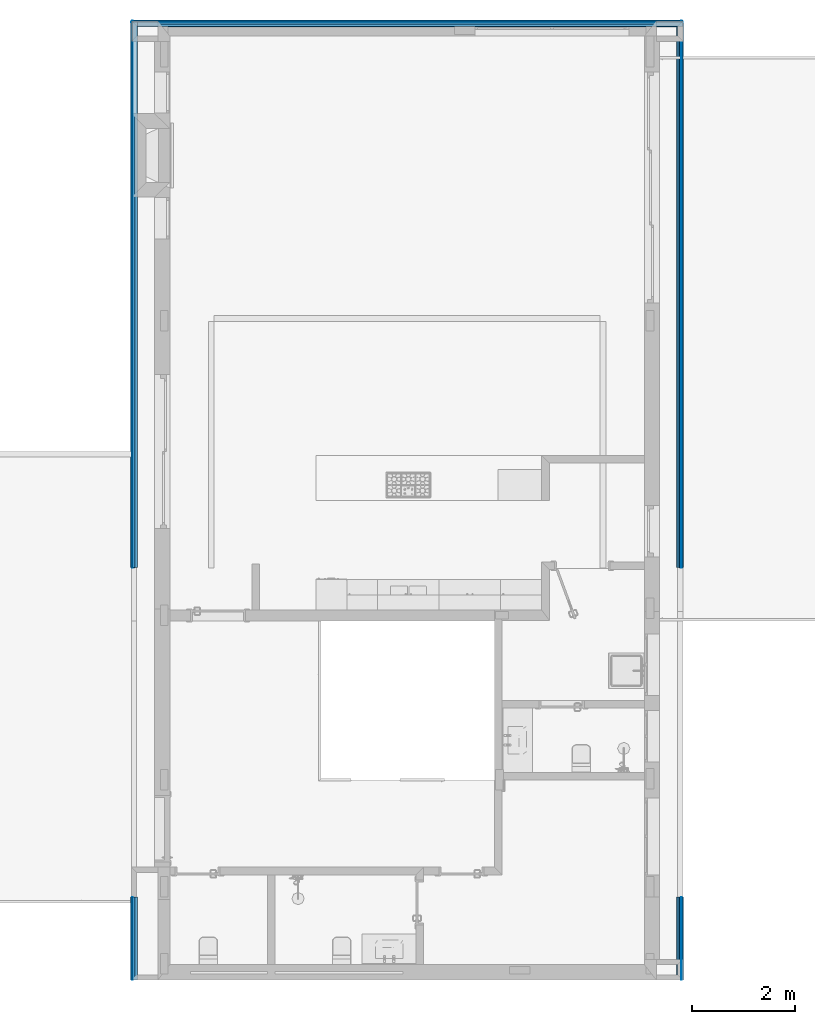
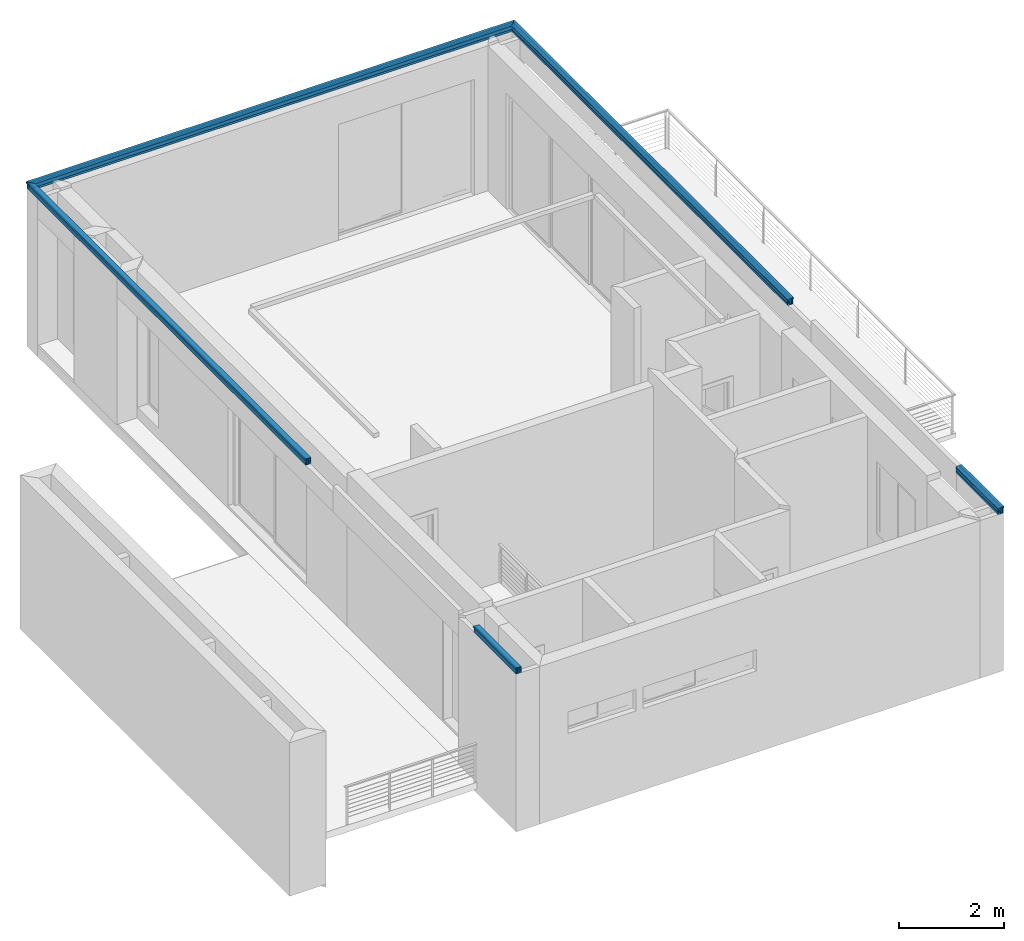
# One storey, part 9 of 26: 30 building element parts, 5 elements without a shape of their own.
"""IFC2X3 building model written with IfcOpenShell, lengths in millimetres."""

from ifc_helpers import new_model, entity, si_unit, converted_unit, money_unit, direction, frame, origin_with_axes, place, context, subcontext, project, spatial, polyline, outline, extrude, material, type_object, element, aggregate, save


model = new_model("IFC2X3")

# Units and contexts
model_context = context("Model", 3, precision=1e-05, world=origin_with_axes(), true_north=direction((0.0, 1.0)))
body_context = subcontext(model_context, "Body", "Model", "MODEL_VIEW")
ifc_project = project(units=[si_unit("LENGTHUNIT", "METRE", prefix="MILLI"), si_unit("AREAUNIT", "SQUARE_METRE"), si_unit("VOLUMEUNIT", "CUBIC_METRE"), converted_unit("PLANEANGLEUNIT", "DEGREE", entity("IfcPlaneAngleMeasure", 0.0174532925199), si_unit("PLANEANGLEUNIT", "RADIAN"), dimensions=[0, 0, 0, 0, 0, 0, 0]), si_unit("SOLIDANGLEUNIT", "STERADIAN"), money_unit("USD"), converted_unit("TIMEUNIT", "Year", entity("IfcTimeMeasure", 31556926.0), si_unit("TIMEUNIT", "SECOND"), dimensions=[0, 0, 0, 0, 0, 0, 0]), si_unit("MASSUNIT", "GRAM"), si_unit("THERMODYNAMICTEMPERATUREUNIT", "DEGREE_CELSIUS"), si_unit("LUMINOUSINTENSITYUNIT", "LUMEN")], contexts=[model_context])

# Site, building, storey
site_placement = place(None, origin_with_axes())
site = spatial("IfcSite", under=ifc_project, at=site_placement, Name="Grove Residential", CompositionType="ELEMENT")
building_placement = place(site_placement, origin_with_axes())
building = spatial("IfcBuilding", under=site, at=building_placement, Name="Building", CompositionType="ELEMENT")
storey_placement = place(building_placement, origin_with_axes())
storey = spatial("IfcBuildingStorey", under=building, at=storey_placement, Name="Ground Floor", CompositionType="ELEMENT", Elevation=0.0)

# Wall, building element parts
wall_type = type_object("IfcWallType", Name="Detail 01 135 x 150", PredefinedType="NOTDEFINED")
wall_1_placement = place(storey_placement, frame((10750.0, -150.0, 3380.0), z_axis=(0.0, 0.0, 1.0), x_axis=(0.0, 1.0, 0.0)))
wall_1 = element("IfcWall", 1, at=wall_1_placement, inside=storey, type_object=wall_type, Name="SW - 004")
ifc_material_1 = material(Name="Titanium Zinc")
building_element_part_1_placement = place(wall_1_placement, origin_with_axes())
building_element_part_1 = element("IfcBuildingElementPart", 2, at=building_element_part_1_placement, material=ifc_material_1, Name="Titanium Zinc", context=body_context, shape_type="SweptSolid", body=[
    extrude(outline(polyline([(-14.9136671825, 150.0), (-14.9136671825, 114.501184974), (-9.91366718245, 114.501184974), (-1.52515777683, 122.889694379), (-5.06069260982, 126.425226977), (-9.91366718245, 121.57225464), (-9.91366718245, 144.501184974), (115.0, 132.604645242), (115.086332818, 128.511777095), (120.086332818, 128.511777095), (120.086332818, 137.142857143), (-14.9136671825, 150.0)])), frame((0.0, 0.0, 0.0), z_axis=(1.0, 0.0, 0.0), x_axis=(0.0, 1.0, 0.0)), (0.0, 0.0, 1.0), 1614.99992309),
])
ifc_material_2 = material(Name="Membrane - Rainproof")
building_element_part_2_placement = place(wall_1_placement, origin_with_axes())
building_element_part_2 = element("IfcBuildingElementPart", 3, at=building_element_part_2_placement, material=ifc_material_2, Name="Membrane - Rainproof", context=body_context, shape_type="SweptSolid", body=[
    extrude(outline(polyline([(-9.91366740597, 144.501185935), (-9.91366740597, 128.511776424), (-1.96900024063e-07, 128.511776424), (-1.96900024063e-07, 133.511776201), (104.999999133, 123.511776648), (104.999999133, 50.0), (115.000000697, 50.0), (115.000000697, 132.604644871), (-9.91366740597, 144.501185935)])), frame((0.0, 0.0, 0.0), z_axis=(1.0, 0.0, 0.0), x_axis=(0.0, 1.0, 0.0)), (0.0, 0.0, 1.0), 1614.99992309),
])
ifc_material_3 = material(Name="Insulation - Plastic Soft")
building_element_part_3_placement = place(wall_1_placement, origin_with_axes())
building_element_part_3 = element("IfcBuildingElementPart", 4, at=building_element_part_3_placement, material=ifc_material_3, Name="Insulation - Plastic Soft", context=body_context, shape_type="SweptSolid", body=[
    extrude(outline(polyline([(65.0, 0.0), (115.0, 0.0), (115.0, 50.0), (65.0, 50.0), (65.0, 0.0)])), frame((0.0, 0.0, 0.0), z_axis=(1.0, 0.0, 0.0), x_axis=(0.0, 1.0, 0.0)), (0.0, 0.0, 1.0), 1614.99992309),
])
ifc_material_4 = material(Name="Air Space")
building_element_part_4_placement = place(wall_1_placement, origin_with_axes())
building_element_part_4 = element("IfcBuildingElementPart", 5, at=building_element_part_4_placement, material=ifc_material_4, Name="Air Space", context=body_context, shape_type="SweptSolid", body=[
    extrude(outline(polyline([(30.0, 0.0), (65.0, 0.0), (65.0, 127.321300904), (30.0, 130.654634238), (30.0, 0.0)])), frame((0.0, 0.0, 0.0), z_axis=(1.0, 0.0, 0.0), x_axis=(0.0, 1.0, 0.0)), (0.0, 0.0, 1.0), 1614.99992309),
])
ifc_material_5 = material(Name="Cement Board")
building_element_part_5_placement = place(wall_1_placement, origin_with_axes())
building_element_part_5 = element("IfcBuildingElementPart", 6, at=building_element_part_5_placement, material=ifc_material_5, Name="Cement Board", context=body_context, shape_type="SweptSolid", body=[
    extrude(outline(polyline([(20.0, 0.0), (30.0, 0.0), (30.0, 130.654634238), (20.0, 131.60701519), (20.0, 0.0)])), frame((0.0, 0.0, 0.0), z_axis=(1.0, 0.0, 0.0), x_axis=(0.0, 1.0, 0.0)), (0.0, 0.0, 1.0), 1614.99992309),
])
ifc_material_6 = material(Name="External Render")
building_element_part_6_placement = place(wall_1_placement, origin_with_axes())
building_element_part_6 = element("IfcBuildingElementPart", 7, at=building_element_part_6_placement, material=ifc_material_6, Name="External Render", context=body_context, shape_type="SweptSolid", body=[
    extrude(outline(polyline([(0.0, 0.0), (20.0, 0.0), (20.0, 131.60701519), (0.0, 133.511777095), (0.0, 0.0)])), frame((0.0, 0.0, 0.0), z_axis=(1.0, 0.0, 0.0), x_axis=(0.0, 1.0, 0.0)), (0.0, 0.0, 1.0), 1614.99992309),
])
aggregate(wall_1, [building_element_part_1, building_element_part_2, building_element_part_3, building_element_part_4, building_element_part_5, building_element_part_6])

wall_2_placement = place(storey_placement, frame((0.0, -150.0, 3380.0), z_axis=(0.0, 0.0, 1.0), x_axis=(0.0, 1.0, 0.0)))
wall_2 = element("IfcWall", 8, at=wall_2_placement, inside=storey, type_object=wall_type, Name="SW - 004")
building_element_part_7_placement = place(wall_2_placement, origin_with_axes())
building_element_part_7 = element("IfcBuildingElementPart", 9, at=building_element_part_7_placement, material=ifc_material_1, Name="Titanium Zinc", context=body_context, shape_type="SweptSolid", body=[
    extrude(outline(polyline([(-14.9136671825, 150.0), (-14.9136671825, 114.501184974), (-9.91366718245, 114.501184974), (-1.52515777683, 122.889694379), (-5.06069260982, 126.425226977), (-9.91366718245, 121.57225464), (-9.91366718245, 144.501184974), (115.0, 132.604645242), (115.086332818, 128.511777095), (120.086332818, 128.511777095), (120.086332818, 137.142857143), (-14.9136671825, 150.0)])), frame((0.0, 0.0, 0.0), z_axis=(-1.0, 0.0, 0.0), x_axis=(0.0, -1.0, 0.0)), (0.0, 0.0, -1.0), 1614.99992309),
])
building_element_part_8_placement = place(wall_2_placement, origin_with_axes())
building_element_part_8 = element("IfcBuildingElementPart", 10, at=building_element_part_8_placement, material=ifc_material_2, Name="Membrane - Rainproof", context=body_context, shape_type="SweptSolid", body=[
    extrude(outline(polyline([(-9.91366740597, 144.501185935), (-9.91366740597, 128.511776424), (-1.96900024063e-07, 128.511776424), (-1.96900024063e-07, 133.511776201), (104.999999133, 123.511776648), (104.999999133, 50.0), (115.000000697, 50.0), (115.000000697, 132.604644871), (-9.91366740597, 144.501185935)])), frame((0.0, 0.0, 0.0), z_axis=(-1.0, 0.0, 0.0), x_axis=(0.0, -1.0, 0.0)), (0.0, 0.0, -1.0), 1614.99992309),
])
building_element_part_9_placement = place(wall_2_placement, origin_with_axes())
building_element_part_9 = element("IfcBuildingElementPart", 11, at=building_element_part_9_placement, material=ifc_material_3, Name="Insulation - Plastic Soft", context=body_context, shape_type="SweptSolid", body=[
    extrude(outline(polyline([(65.0, 0.0), (115.0, 0.0), (115.0, 50.0), (65.0, 50.0), (65.0, 0.0)])), frame((0.0, 0.0, 0.0), z_axis=(-1.0, 0.0, 0.0), x_axis=(0.0, -1.0, 0.0)), (0.0, 0.0, -1.0), 1614.99992309),
])
building_element_part_10_placement = place(wall_2_placement, origin_with_axes())
building_element_part_10 = element("IfcBuildingElementPart", 12, at=building_element_part_10_placement, material=ifc_material_4, Name="Air Space", context=body_context, shape_type="SweptSolid", body=[
    extrude(outline(polyline([(30.0, 0.0), (65.0, 0.0), (65.0, 127.321300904), (30.0, 130.654634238), (30.0, 0.0)])), frame((0.0, 0.0, 0.0), z_axis=(-1.0, 0.0, 0.0), x_axis=(0.0, -1.0, 0.0)), (0.0, 0.0, -1.0), 1614.99992309),
])
building_element_part_11_placement = place(wall_2_placement, origin_with_axes())
building_element_part_11 = element("IfcBuildingElementPart", 13, at=building_element_part_11_placement, material=ifc_material_5, Name="Cement Board", context=body_context, shape_type="SweptSolid", body=[
    extrude(outline(polyline([(20.0, 0.0), (30.0, 0.0), (30.0, 130.654634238), (20.0, 131.60701519), (20.0, 0.0)])), frame((0.0, 0.0, 0.0), z_axis=(-1.0, 0.0, 0.0), x_axis=(0.0, -1.0, 0.0)), (0.0, 0.0, -1.0), 1614.99992309),
])
building_element_part_12_placement = place(wall_2_placement, origin_with_axes())
building_element_part_12 = element("IfcBuildingElementPart", 14, at=building_element_part_12_placement, material=ifc_material_6, Name="External Render", context=body_context, shape_type="SweptSolid", body=[
    extrude(outline(polyline([(0.0, 0.0), (20.0, 0.0), (20.0, 131.60701519), (0.0, 133.511777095), (0.0, 0.0)])), frame((0.0, 0.0, 0.0), z_axis=(-1.0, 0.0, 0.0), x_axis=(0.0, -1.0, 0.0)), (0.0, 0.0, -1.0), 1614.99992309),
])
aggregate(wall_2, [building_element_part_7, building_element_part_8, building_element_part_9, building_element_part_10, building_element_part_11, building_element_part_12])

wall_3_placement = place(storey_placement, frame((10750.0, 7890.0, 3380.0), z_axis=(0.0, 0.0, 1.0), x_axis=(0.0, 1.0, 0.0)))
wall_3 = element("IfcWall", 15, at=wall_3_placement, inside=storey, type_object=wall_type, Name="SW - 004")
building_element_part_13_placement = place(wall_3_placement, origin_with_axes())
building_element_part_13 = element("IfcBuildingElementPart", 16, at=building_element_part_13_placement, material=ifc_material_1, Name="Titanium Zinc", context=body_context, shape_type="SweptSolid", body=[
    extrude(outline(polyline([(-14.9136671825, 150.0), (-14.9136671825, 114.501184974), (-9.91366718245, 114.501184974), (-1.52515777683, 122.889694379), (-5.06069260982, 126.425226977), (-9.91366718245, 121.57225464), (-9.91366718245, 144.501184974), (115.0, 132.604645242), (115.086332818, 128.511777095), (120.086332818, 128.511777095), (120.086332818, 137.142857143), (-14.9136671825, 150.0)])), frame((0.0, 0.0, 0.0), z_axis=(1.0, 0.0, 0.0), x_axis=(0.0, 1.0, 0.0)), (0.0, 0.0, 1.0), 10660.0),
])
building_element_part_14_placement = place(wall_3_placement, origin_with_axes())
building_element_part_14 = element("IfcBuildingElementPart", 17, at=building_element_part_14_placement, material=ifc_material_2, Name="Membrane - Rainproof", context=body_context, shape_type="SweptSolid", body=[
    extrude(outline(polyline([(-9.91366740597, 144.501185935), (-9.91366740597, 128.511776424), (-1.96900024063e-07, 128.511776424), (-1.96900024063e-07, 133.511776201), (104.999999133, 123.511776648), (104.999999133, 50.0), (115.000000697, 50.0), (115.000000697, 132.604644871), (-9.91366740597, 144.501185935)])), frame((0.0, 0.0, 0.0), z_axis=(1.0, 0.0, 0.0), x_axis=(0.0, 1.0, 0.0)), (0.0, 0.0, 1.0), 10660.0),
])
building_element_part_15_placement = place(wall_3_placement, origin_with_axes())
building_element_part_15 = element("IfcBuildingElementPart", 18, at=building_element_part_15_placement, material=ifc_material_3, Name="Insulation - Plastic Soft", context=body_context, shape_type="SweptSolid", body=[
    extrude(outline(polyline([(65.0, 0.0), (115.0, 0.0), (115.0, 50.0), (65.0, 50.0), (65.0, 0.0)])), frame((0.0, 0.0, 0.0), z_axis=(1.0, 0.0, 0.0), x_axis=(0.0, 1.0, 0.0)), (0.0, 0.0, 1.0), 10660.0),
])
building_element_part_16_placement = place(wall_3_placement, origin_with_axes())
building_element_part_16 = element("IfcBuildingElementPart", 19, at=building_element_part_16_placement, material=ifc_material_4, Name="Air Space", context=body_context, shape_type="SweptSolid", body=[
    extrude(outline(polyline([(30.0, 0.0), (65.0, 0.0), (65.0, 127.321300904), (30.0, 130.654634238), (30.0, 0.0)])), frame((0.0, 0.0, 0.0), z_axis=(1.0, 0.0, 0.0), x_axis=(0.0, 1.0, 0.0)), (0.0, 0.0, 1.0), 10660.0),
])
building_element_part_17_placement = place(wall_3_placement, origin_with_axes())
building_element_part_17 = element("IfcBuildingElementPart", 20, at=building_element_part_17_placement, material=ifc_material_5, Name="Cement Board", context=body_context, shape_type="SweptSolid", body=[
    extrude(outline(polyline([(20.0, 0.0), (30.0, 0.0), (30.0, 130.654634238), (20.0, 131.60701519), (20.0, 0.0)])), frame((0.0, 0.0, 0.0), z_axis=(1.0, 0.0, 0.0), x_axis=(0.0, 1.0, 0.0)), (0.0, 0.0, 1.0), 10660.0),
])
building_element_part_18_placement = place(wall_3_placement, origin_with_axes())
building_element_part_18 = element("IfcBuildingElementPart", 21, at=building_element_part_18_placement, material=ifc_material_6, Name="External Render", context=body_context, shape_type="SweptSolid", body=[
    extrude(outline(polyline([(0.0, 0.0), (20.0, 0.0), (20.0, 131.60701519), (0.0, 133.511777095), (0.0, 0.0)])), frame((0.0, 0.0, 0.0), z_axis=(1.0, 0.0, 0.0), x_axis=(0.0, 1.0, 0.0)), (0.0, 0.0, 1.0), 10660.0),
])
aggregate(wall_3, [building_element_part_13, building_element_part_14, building_element_part_15, building_element_part_16, building_element_part_17, building_element_part_18])

wall_4_placement = place(storey_placement, frame((10750.0, 18550.0, 3380.0), z_axis=(0.0, 0.0, 1.0), x_axis=(-1.0, 0.0, 0.0)))
wall_4 = element("IfcWall", 22, at=wall_4_placement, inside=storey, type_object=wall_type, Name="SW - 004")
building_element_part_19_placement = place(wall_4_placement, origin_with_axes())
building_element_part_19 = element("IfcBuildingElementPart", 23, at=building_element_part_19_placement, material=ifc_material_1, Name="Titanium Zinc", context=body_context, shape_type="SweptSolid", body=[
    extrude(outline(polyline([(-14.9136671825, 150.0), (-14.9136671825, 114.501184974), (-9.91366718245, 114.501184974), (-1.52515777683, 122.889694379), (-5.06069260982, 126.425226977), (-9.91366718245, 121.57225464), (-9.91366718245, 144.501184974), (115.0, 132.604645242), (115.086332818, 128.511777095), (120.086332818, 128.511777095), (120.086332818, 137.142857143), (-14.9136671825, 150.0)])), frame((0.0, 0.0, 0.0), z_axis=(1.0, 0.0, 0.0), x_axis=(0.0, 1.0, 0.0)), (0.0, 0.0, 1.0), 10750.0),
])
building_element_part_20_placement = place(wall_4_placement, origin_with_axes())
building_element_part_20 = element("IfcBuildingElementPart", 24, at=building_element_part_20_placement, material=ifc_material_2, Name="Membrane - Rainproof", context=body_context, shape_type="SweptSolid", body=[
    extrude(outline(polyline([(-9.91366740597, 144.501185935), (-9.91366740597, 128.511776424), (-1.96900024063e-07, 128.511776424), (-1.96900024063e-07, 133.511776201), (104.999999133, 123.511776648), (104.999999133, 50.0), (115.000000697, 50.0), (115.000000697, 132.604644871), (-9.91366740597, 144.501185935)])), frame((0.0, 0.0, 0.0), z_axis=(1.0, 0.0, 0.0), x_axis=(0.0, 1.0, 0.0)), (0.0, 0.0, 1.0), 10750.0),
])
building_element_part_21_placement = place(wall_4_placement, origin_with_axes())
building_element_part_21 = element("IfcBuildingElementPart", 25, at=building_element_part_21_placement, material=ifc_material_3, Name="Insulation - Plastic Soft", context=body_context, shape_type="SweptSolid", body=[
    extrude(outline(polyline([(65.0, 0.0), (115.0, 0.0), (115.0, 50.0), (65.0, 50.0), (65.0, 0.0)])), frame((0.0, 0.0, 0.0), z_axis=(1.0, 0.0, 0.0), x_axis=(0.0, 1.0, 0.0)), (0.0, 0.0, 1.0), 10750.0),
])
building_element_part_22_placement = place(wall_4_placement, origin_with_axes())
building_element_part_22 = element("IfcBuildingElementPart", 26, at=building_element_part_22_placement, material=ifc_material_4, Name="Air Space", context=body_context, shape_type="SweptSolid", body=[
    extrude(outline(polyline([(30.0, 0.0), (65.0, 0.0), (65.0, 127.321300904), (30.0, 130.654634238), (30.0, 0.0)])), frame((0.0, 0.0, 0.0), z_axis=(1.0, 0.0, 0.0), x_axis=(0.0, 1.0, 0.0)), (0.0, 0.0, 1.0), 10750.0),
])
building_element_part_23_placement = place(wall_4_placement, origin_with_axes())
building_element_part_23 = element("IfcBuildingElementPart", 27, at=building_element_part_23_placement, material=ifc_material_5, Name="Cement Board", context=body_context, shape_type="SweptSolid", body=[
    extrude(outline(polyline([(20.0, 0.0), (30.0, 0.0), (30.0, 130.654634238), (20.0, 131.60701519), (20.0, 0.0)])), frame((0.0, 0.0, 0.0), z_axis=(1.0, 0.0, 0.0), x_axis=(0.0, 1.0, 0.0)), (0.0, 0.0, 1.0), 10750.0),
])
building_element_part_24_placement = place(wall_4_placement, origin_with_axes())
building_element_part_24 = element("IfcBuildingElementPart", 28, at=building_element_part_24_placement, material=ifc_material_6, Name="External Render", context=body_context, shape_type="SweptSolid", body=[
    extrude(outline(polyline([(0.0, 0.0), (20.0, 0.0), (20.0, 131.60701519), (0.0, 133.511777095), (0.0, 0.0)])), frame((0.0, 0.0, 0.0), z_axis=(1.0, 0.0, 0.0), x_axis=(0.0, 1.0, 0.0)), (0.0, 0.0, 1.0), 10750.0),
])
aggregate(wall_4, [building_element_part_19, building_element_part_20, building_element_part_21, building_element_part_22, building_element_part_23, building_element_part_24])

wall_5_placement = place(storey_placement, frame((0.0, 18550.0, 3380.0), z_axis=(0.0, 0.0, 1.0), x_axis=(0.0, -1.0, 0.0)))
wall_5 = element("IfcWall", 29, at=wall_5_placement, inside=storey, type_object=wall_type, Name="SW - 005")
building_element_part_25_placement = place(wall_5_placement, origin_with_axes())
building_element_part_25 = element("IfcBuildingElementPart", 30, at=building_element_part_25_placement, material=ifc_material_1, Name="Titanium Zinc", context=body_context, shape_type="SweptSolid", body=[
    extrude(outline(polyline([(-14.9136671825, 150.0), (-14.9136671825, 114.501184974), (-9.91366718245, 114.501184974), (-1.52515777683, 122.889694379), (-5.06069260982, 126.425226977), (-9.91366718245, 121.57225464), (-9.91366718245, 144.501184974), (115.0, 132.604645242), (115.086332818, 128.511777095), (120.086332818, 128.511777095), (120.086332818, 137.142857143), (-14.9136671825, 150.0)])), frame((0.0, 0.0, 0.0), z_axis=(1.0, 0.0, 0.0), x_axis=(0.0, 1.0, 0.0)), (0.0, 0.0, 1.0), 10660.0),
])
building_element_part_26_placement = place(wall_5_placement, origin_with_axes())
building_element_part_26 = element("IfcBuildingElementPart", 31, at=building_element_part_26_placement, material=ifc_material_2, Name="Membrane - Rainproof", context=body_context, shape_type="SweptSolid", body=[
    extrude(outline(polyline([(-9.91366740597, 144.501185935), (-9.91366740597, 128.511776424), (-1.96900024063e-07, 128.511776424), (-1.96900024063e-07, 133.511776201), (104.999999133, 123.511776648), (104.999999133, 50.0), (115.000000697, 50.0), (115.000000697, 132.604644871), (-9.91366740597, 144.501185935)])), frame((0.0, 0.0, 0.0), z_axis=(1.0, 0.0, 0.0), x_axis=(0.0, 1.0, 0.0)), (0.0, 0.0, 1.0), 10660.0),
])
building_element_part_27_placement = place(wall_5_placement, origin_with_axes())
building_element_part_27 = element("IfcBuildingElementPart", 32, at=building_element_part_27_placement, material=ifc_material_3, Name="Insulation - Plastic Soft", context=body_context, shape_type="SweptSolid", body=[
    extrude(outline(polyline([(65.0, 0.0), (115.0, 0.0), (115.0, 50.0), (65.0, 50.0), (65.0, 0.0)])), frame((0.0, 0.0, 0.0), z_axis=(1.0, 0.0, 0.0), x_axis=(0.0, 1.0, 0.0)), (0.0, 0.0, 1.0), 10660.0),
])
building_element_part_28_placement = place(wall_5_placement, origin_with_axes())
building_element_part_28 = element("IfcBuildingElementPart", 33, at=building_element_part_28_placement, material=ifc_material_4, Name="Air Space", context=body_context, shape_type="SweptSolid", body=[
    extrude(outline(polyline([(30.0, 0.0), (65.0, 0.0), (65.0, 127.321300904), (30.0, 130.654634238), (30.0, 0.0)])), frame((0.0, 0.0, 0.0), z_axis=(1.0, 0.0, 0.0), x_axis=(0.0, 1.0, 0.0)), (0.0, 0.0, 1.0), 10660.0),
])
building_element_part_29_placement = place(wall_5_placement, origin_with_axes())
building_element_part_29 = element("IfcBuildingElementPart", 34, at=building_element_part_29_placement, material=ifc_material_5, Name="Cement Board", context=body_context, shape_type="SweptSolid", body=[
    extrude(outline(polyline([(20.0, 0.0), (30.0, 0.0), (30.0, 130.654634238), (20.0, 131.60701519), (20.0, 0.0)])), frame((0.0, 0.0, 0.0), z_axis=(1.0, 0.0, 0.0), x_axis=(0.0, 1.0, 0.0)), (0.0, 0.0, 1.0), 10660.0),
])
building_element_part_30_placement = place(wall_5_placement, origin_with_axes())
building_element_part_30 = element("IfcBuildingElementPart", 35, at=building_element_part_30_placement, material=ifc_material_6, Name="External Render", context=body_context, shape_type="SweptSolid", body=[
    extrude(outline(polyline([(0.0, 0.0), (20.0, 0.0), (20.0, 131.60701519), (0.0, 133.511777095), (0.0, 0.0)])), frame((0.0, 0.0, 0.0), z_axis=(1.0, 0.0, 0.0), x_axis=(0.0, 1.0, 0.0)), (0.0, 0.0, 1.0), 10660.0),
])
aggregate(wall_5, [building_element_part_25, building_element_part_26, building_element_part_27, building_element_part_28, building_element_part_29, building_element_part_30])

save(model, "model.ifc")
